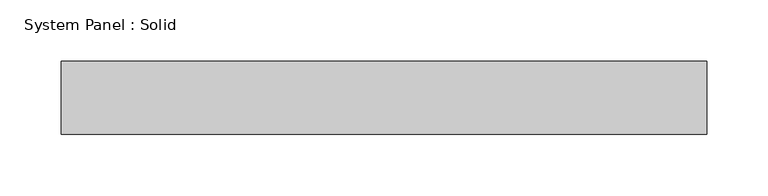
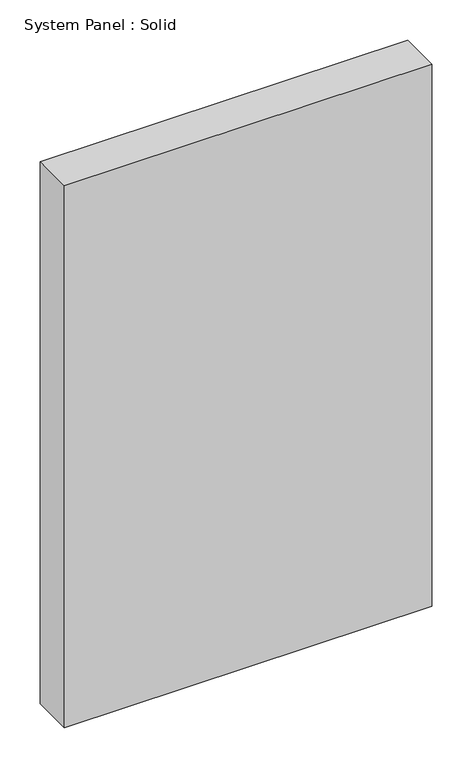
"""IFC4 building model written with IfcOpenShell, lengths in millimetres: plate geometry, System Panel : Solid."""

from ifc_helpers import new_model, si_unit, origin, origin_with_axes, place, context, project, spatial, polyline, outline, extrude, source, transform, mapped, element, save


def system_panel_solid_d4510be5(model_context):
    return source(origin(), model_context, "Body", "SweptSolid", [
        extrude(outline(polyline([(264.5000001, -49.5), (-264.5000001, -49.5), (-264.5000001, 10.5), (264.5000001, 10.5), (264.5000001, -49.5)])), origin_with_axes(), (0.0, 0.0, 1.0), 825.0),
    ])


if __name__ == "__main__":
    model = new_model("IFC4")
    model_context = context("Model", 3, world=origin())
    ifc_project = project(units=[si_unit("LENGTHUNIT", "METRE", prefix="MILLI")], contexts=[model_context])
    site = spatial("IfcSite", under=ifc_project)
    building = spatial("IfcBuilding", under=site)
    placement = place(None, origin())
    system_panel_solid_shape = system_panel_solid_d4510be5(model_context)
    element("IfcPlate", 1, ObjectType="System Panel : Solid", at=placement, inside=building, context=model_context, shape_type="MappedRepresentation", body=[
        mapped(system_panel_solid_shape, transform((0.0, 0.0, 0.0), x_axis=(1.0, 0.0, 0.0), y_axis=(0.0, 1.0, 0.0), z_axis=(0.0, 0.0, 1.0))),
    ])
    save(model, "model.ifc")
